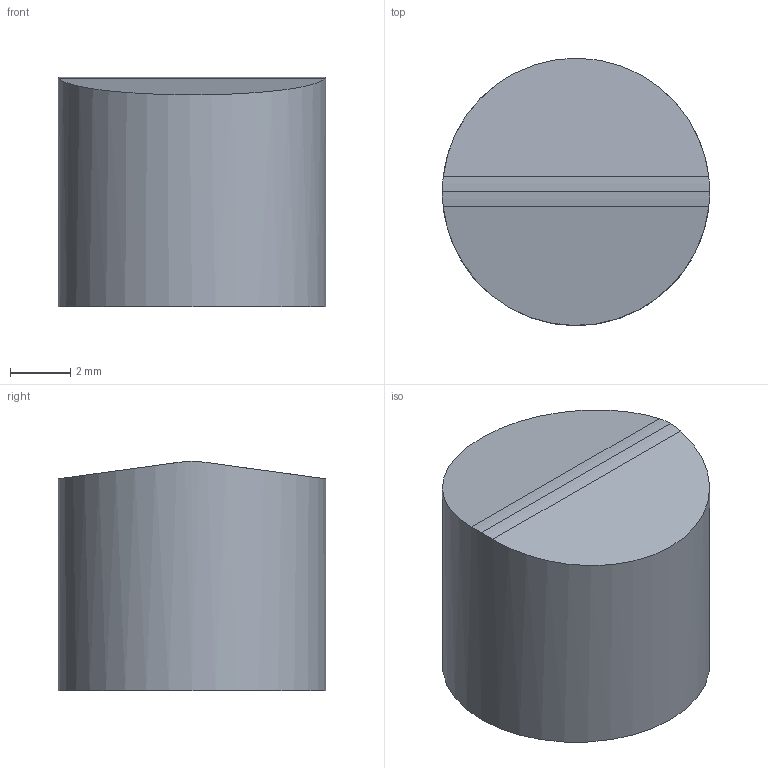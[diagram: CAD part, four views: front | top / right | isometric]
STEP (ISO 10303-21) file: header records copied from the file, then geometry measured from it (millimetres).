
FILE_DESCRIPTION(/* description */ ('Alibre Inc.'),/* implementation_level */ '2;1');
FILE_NAME(/* name */ 'export0',/* time_stamp */ '2011-07-18T12:48:24-04:00',/* author */ (''),/* organization */ (''),/* preprocessor_version */ 'ST-DEVELOPER v12',/* originating_system */ 'Alibre',/* authorisation */ '');
FILE_SCHEMA (('AUTOMOTIVE_DESIGN'));
Length unit declared in the file: centimetre
Bounding box: 8.89 x 8.89 x 7.62 mm (x, y, z)
Volume: 458.8 mm3; surface area: 327.5 mm2
Topology: 1 solids, 1 shells, 6 faces, 11 edges, 7 vertices
Faces by surface type: plane 3, bspline 2, cylinder 1
Full cylindrical faces by diameter (mm): 8.89 x1
Entity records: 177 total; most frequent: CARTESIAN_POINT 57, ORIENTED_EDGE 20, DIRECTION 14, EDGE_CURVE 10, VERTEX_POINT 7, EDGE_LOOP 7, FACE_BOUND 7, AXIS2_PLACEMENT_3D 7
